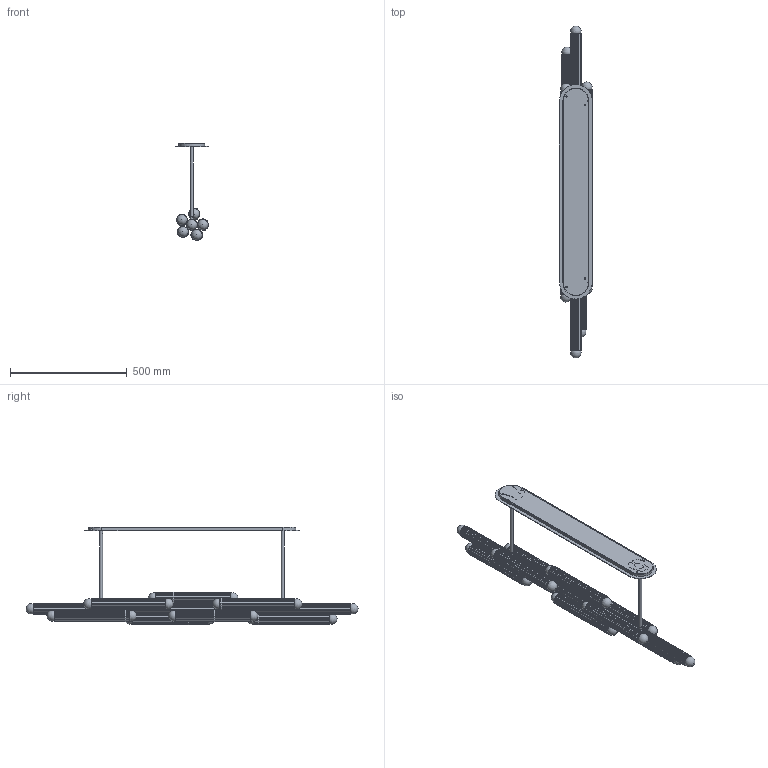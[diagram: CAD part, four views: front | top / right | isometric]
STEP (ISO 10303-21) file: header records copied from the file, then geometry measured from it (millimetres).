
FILE_DESCRIPTION(/* description */ (''),/* implementation_level */ '2;1');
FILE_NAME(/* name */ 'B747 Vesta Linear.stp',/* time_stamp */ '2025-07-10T15:03:43+02:00',/* author */ ('Lukasz'),/* organization */ (''),/* preprocessor_version */ 'ST-DEVELOPER v20.1',/* originating_system */ 'Autodesk Inventor 2026',/* authorisation */ '');
FILE_SCHEMA (('AUTOMOTIVE_DESIGN { 1 0 10303 214 3 1 1 }'));
Products named in the file (1): B747 Vesta Linear - katalog
Bounding box: 141.6 x 1423.6 x 417.33 mm (x, y, z)
Volume: 7112570.7 mm3; surface area: 1762618.5 mm2
Topology: 55 solids, 55 shells, 1590 faces, 4377 edges, 2898 vertices
Faces by surface type: cylinder 730, plane 623, torus 100, cone 59, bspline 58, sphere 20
Full cylindrical faces by diameter (mm): 2.693 x12, 3 x23, 4 x54, 5.5 x12, 10 x5, 12 x20, 13 x4, 17 x20
Entity records: 63446 total; most frequent: CARTESIAN_POINT 20818, ORIENTED_EDGE 8714, DIRECTION 8575, EDGE_CURVE 4357, AXIS2_PLACEMENT_3D 3197, VERTEX_POINT 2898, LINE 2181, VECTOR 2181
